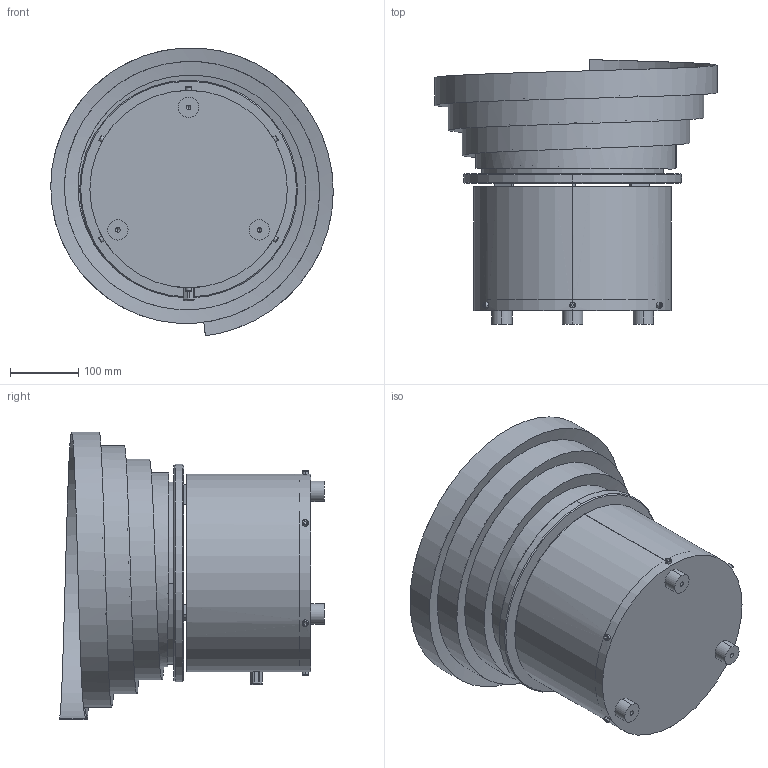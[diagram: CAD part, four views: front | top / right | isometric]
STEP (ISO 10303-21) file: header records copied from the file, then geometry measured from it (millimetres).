
FILE_DESCRIPTION (( 'STEP AP214' ), '1' );
FILE_NAME ('PW360_A420-40_LEWY_WIBRAMET.STEP', '2020-10-27T11:09:18', ( '' ), ( '' ), 'SwSTEP 2.0', 'SolidWorks 2017', '' );
FILE_SCHEMA (( 'AUTOMOTIVE_DESIGN' ));
Length unit declared in the file: millimetre
Products named in the file (5): PW360_WIBRAMET; PW360_A420-40_LEWY_WIBRAMET; PW360-00.22[Podk³adka]; A420L-40; socket head cap screw_iso_ISO 4762 M12 x 45 - 45N
Assembly tree (4 placements, depth 2):
  PW360_A420-40_LEWY_WIBRAMET
    PW360_WIBRAMET
    A420L-40
    PW360-00.22[Podk³adka]
    socket head cap screw_iso_ISO 4762 M12 x 45 - 45N
Bounding box: 415 x 389.08 x 422.83 mm (x, y, z)
Volume: 5571388.4 mm3; surface area: 1416542.2 mm2
Topology: 3 solids, 7 shells, 234 faces, 563 edges, 346 vertices
Faces by surface type: plane 102, cylinder 70, cone 28, bspline 18, torus 16
Entity records: 12066 total; most frequent: CARTESIAN_POINT 6130, ORIENTED_EDGE 1094, DIRECTION 1068, EDGE_CURVE 549, AXIS2_PLACEMENT_3D 381, VERTEX_POINT 346, LINE 306, VECTOR 306
